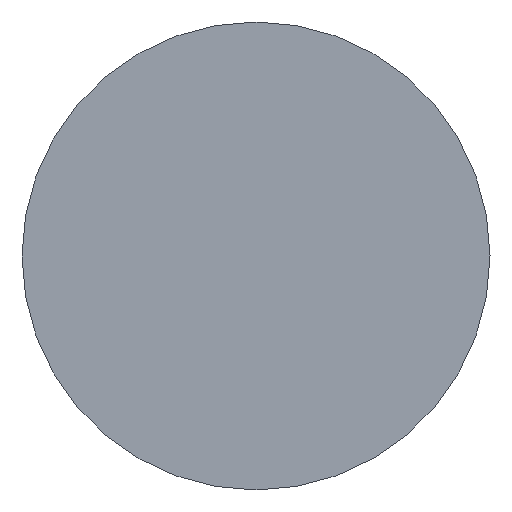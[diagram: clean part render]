
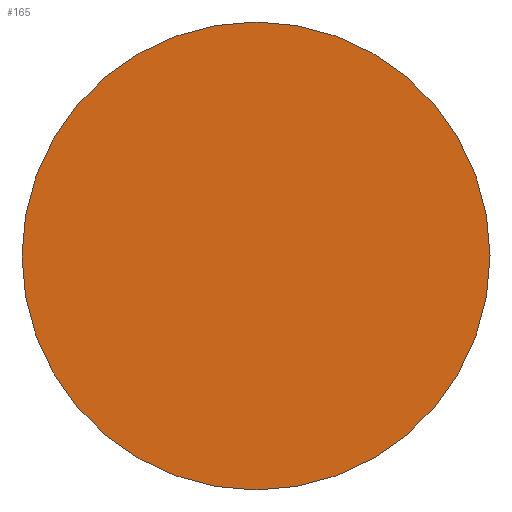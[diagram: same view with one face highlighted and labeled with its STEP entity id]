
A CAD part, left-side view. The second image highlights one B-rep face of the part: STEP entity #165.
In plain terms, the highlighted planar face has unit normal (-1, 0, 0).
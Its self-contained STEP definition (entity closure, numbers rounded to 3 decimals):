
#129=AXIS2_PLACEMENT_3D('Circle Axis2P3D',#127,#128,$) ;
#146=AXIS2_PLACEMENT_3D('Circle Axis2P3D',#144,#145,$) ;
#159=AXIS2_PLACEMENT_3D('Plane Axis2P3D',#156,#157,#158) ;
#110=CARTESIAN_POINT('Vertex',(-324.,-5.,0.)) ;
#124=CARTESIAN_POINT('Vertex',(-324.,5.,0.)) ;
#127=CARTESIAN_POINT('Axis2P3D Location',(-324.,0.,0.)) ;
#144=CARTESIAN_POINT('Axis2P3D Location',(-324.,0.,0.)) ;
#156=CARTESIAN_POINT('Axis2P3D Location',(-324.,0.,0.)) ;
#128=DIRECTION('Axis2P3D Direction',(-1.,0.,0.)) ;
#145=DIRECTION('Axis2P3D Direction',(-1.,0.,0.)) ;
#157=DIRECTION('Axis2P3D Direction',(-1.,0.,0.)) ;
#158=DIRECTION('Axis2P3D XDirection',(0.,-1.,0.)) ;
#162=ORIENTED_EDGE('',*,*,#131,.T.) ;
#163=ORIENTED_EDGE('',*,*,#148,.T.) ;
#165=ADVANCED_FACE('Corps principal',(#164),#160,.T.) ;
#130=CIRCLE('generated circle',#129,5.) ;
#147=CIRCLE('generated circle',#146,5.) ;
#131=EDGE_CURVE('',#111,#125,#130,.T.) ;
#148=EDGE_CURVE('',#125,#111,#147,.T.) ;
#161=EDGE_LOOP('',(#162,#163)) ;
#164=FACE_OUTER_BOUND('',#161,.T.) ;
#160=PLANE('Plane',#159) ;
#111=VERTEX_POINT('',#110) ;
#125=VERTEX_POINT('',#124) ;
